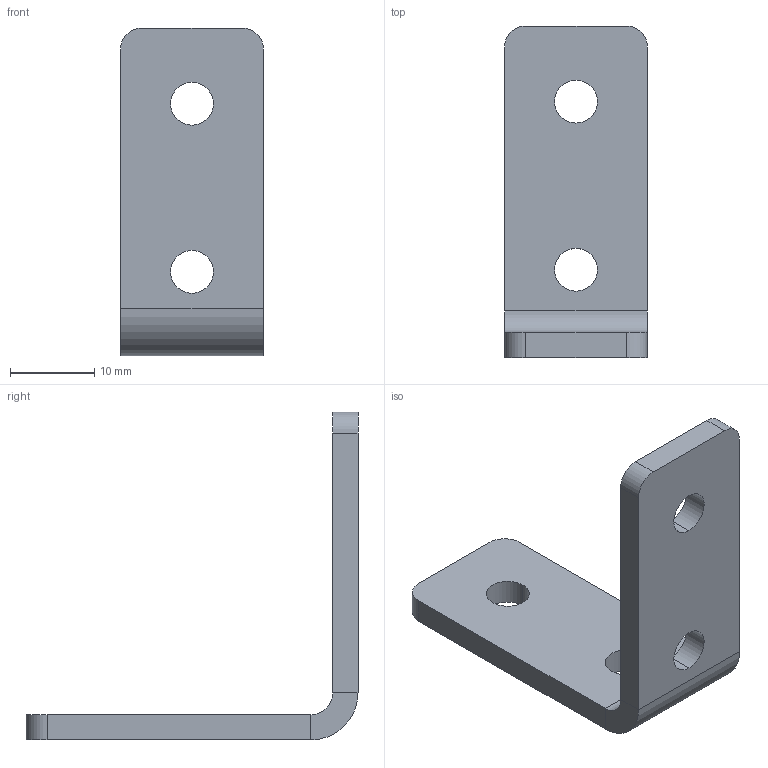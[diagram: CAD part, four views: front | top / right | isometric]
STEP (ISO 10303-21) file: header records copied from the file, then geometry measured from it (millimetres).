
FILE_DESCRIPTION (( 'STEP AP203' ), '1' );
FILE_NAME ('8004s.STEP', '2015-12-16T06:20:13', ( '' ), ( '' ), 'SwSTEP 2.0', 'SolidWorks 2014', '' );
FILE_SCHEMA (( 'CONFIG_CONTROL_DESIGN' ));
Length unit declared in the file: millimetre
Products named in the file (1): 8004s
Bounding box: 17 x 39.5 x 39 mm (x, y, z)
Volume: 3499.5 mm3; surface area: 3056.8 mm2
Topology: 1 solids, 1 shells, 26 faces, 64 edges, 40 vertices
Faces by surface type: cylinder 14, plane 12
Entity records: 865 total; most frequent: DIRECTION 146, CARTESIAN_POINT 131, ORIENTED_EDGE 128, EDGE_CURVE 64, AXIS2_PLACEMENT_3D 55, VERTEX_POINT 40, LINE 36, VECTOR 36
